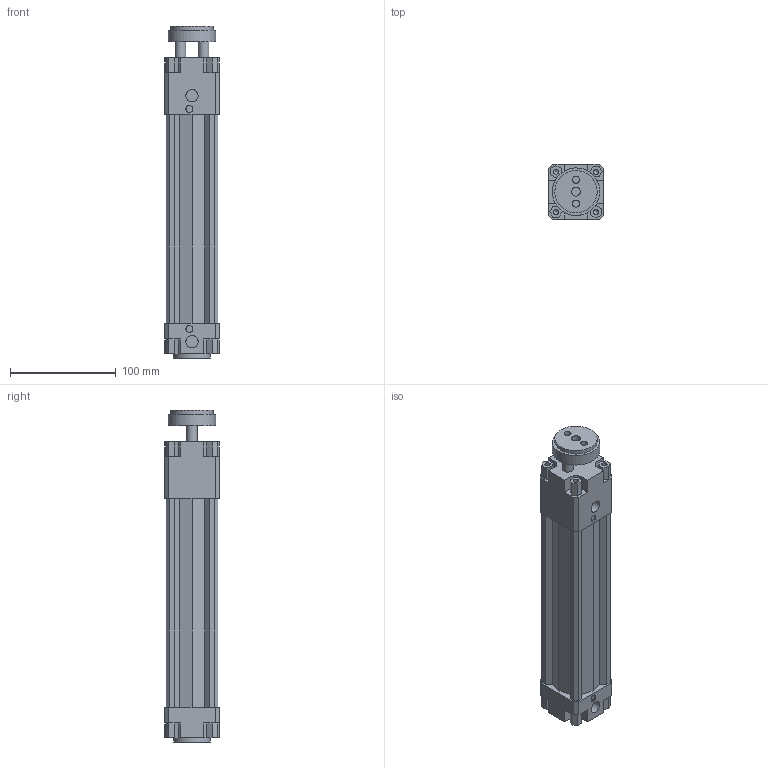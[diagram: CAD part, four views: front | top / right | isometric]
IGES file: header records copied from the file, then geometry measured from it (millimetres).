
Global section: file name: 134#_040_0150_01; native system: Autodesk Inventor 2014; preprocessor: unknown; author: A. Manieri; date: 20161006.164255; units: millimetre
Bounding box: 52 x 52 x 314 mm (x, y, z)
Volume: 452742.5 mm3; surface area: 129873.6 mm2
Topology: 2 solids, 2 shells, 180 faces, 492 edges, 336 vertices
Faces by surface type: bspline 180
